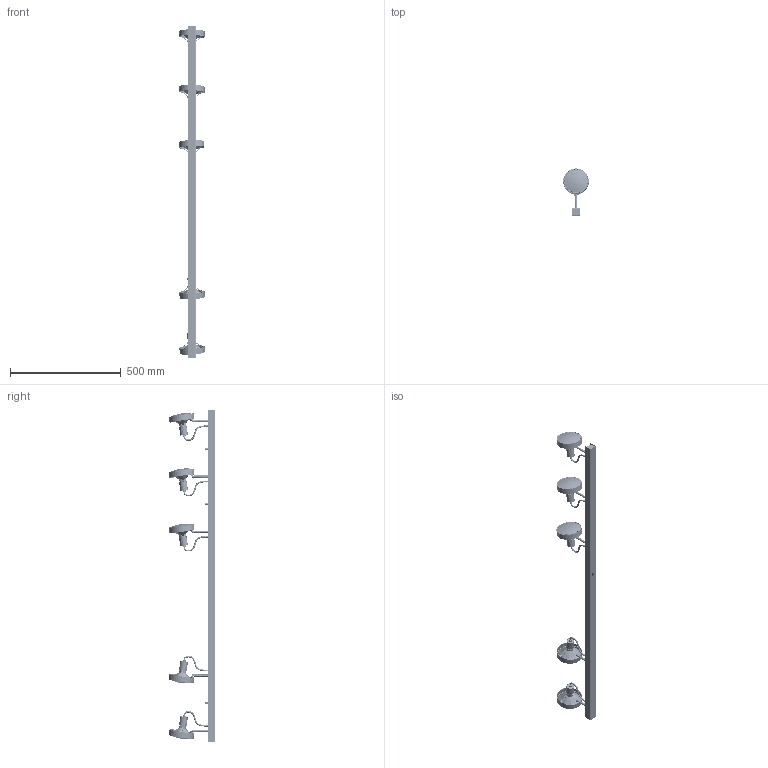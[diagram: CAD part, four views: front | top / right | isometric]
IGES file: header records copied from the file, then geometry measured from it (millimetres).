
Start section: SolidWorks IGES file using analytic representation for surfaces
Global section: file name: C:\Users\Asia\Desktop\IGS CROSS BASIC\1500 cross igs.IGS; native system: SolidWorks 2016; preprocessor: SolidWorks 2016; author: Asia; date: 161021.090003; units: millimetre
Bounding box: 116.38 x 210.37 x 1500 mm (x, y, z)
Surface area: 1129439.7 mm2 (no closed solid volume)
Topology: 0 solids, 0 shells, 5614 faces, 74132 edges, 73896 vertices
Faces by surface type: bspline 3172, revolution 2442
